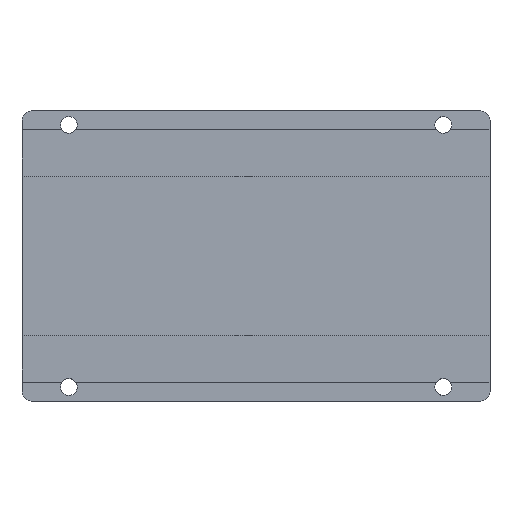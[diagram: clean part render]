
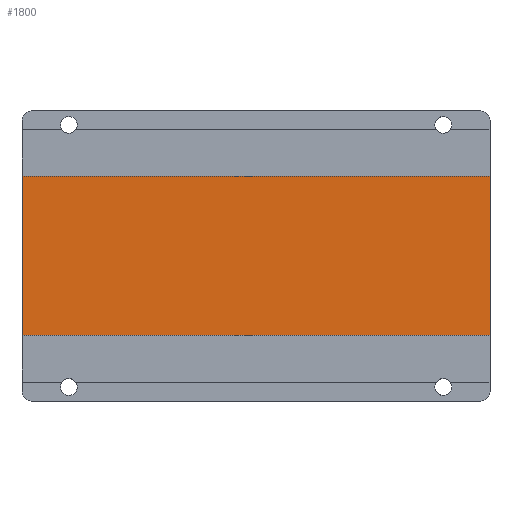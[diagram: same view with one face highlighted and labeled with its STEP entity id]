
A CAD part, top view. The second image highlights one B-rep face of the part: STEP entity #1800.
In plain terms, the highlighted planar face has unit normal (0, 0, 1).
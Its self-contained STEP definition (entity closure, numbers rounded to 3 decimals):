
#32 = PLANE('',#33);
#33 = AXIS2_PLACEMENT_3D('',#34,#35,#36);
#34 = CARTESIAN_POINT('',(0.,-31.,0.));
#35 = DIRECTION('',(1.,0.,0.));
#36 = DIRECTION('',(0.,0.,1.));
#281 = VERTEX_POINT('',#282);
#282 = CARTESIAN_POINT('',(0.,22.,4.));
#296 = PLANE('',#297);
#297 = AXIS2_PLACEMENT_3D('',#298,#299,#300);
#298 = CARTESIAN_POINT('',(0.,22.,4.));
#299 = DIRECTION('',(0.,1.,0.));
#300 = DIRECTION('',(0.,0.,1.));
#308 = EDGE_CURVE('',#309,#281,#311,.T.);
#309 = VERTEX_POINT('',#310);
#310 = CARTESIAN_POINT('',(0.,-22.,4.));
#311 = SURFACE_CURVE('',#312,(#316,#323),.PCURVE_S1.);
#312 = LINE('',#313,#314);
#313 = CARTESIAN_POINT('',(0.,-31.,4.));
#314 = VECTOR('',#315,1.);
#315 = DIRECTION('',(0.,1.,0.));
#316 = PCURVE('',#32,#317);
#317 = DEFINITIONAL_REPRESENTATION('',(#318),#322);
#318 = LINE('',#319,#320);
#319 = CARTESIAN_POINT('',(4.,0.));
#320 = VECTOR('',#321,1.);
#321 = DIRECTION('',(0.,-1.));
#322 = ( GEOMETRIC_REPRESENTATION_CONTEXT(2) 
PARAMETRIC_REPRESENTATION_CONTEXT() REPRESENTATION_CONTEXT('2D SPACE',''
  ) );
#323 = PCURVE('',#324,#329);
#324 = PLANE('',#325);
#325 = AXIS2_PLACEMENT_3D('',#326,#327,#328);
#326 = CARTESIAN_POINT('',(0.,-31.,4.));
#327 = DIRECTION('',(0.,0.,1.));
#328 = DIRECTION('',(1.,0.,0.));
#329 = DEFINITIONAL_REPRESENTATION('',(#330),#334);
#330 = LINE('',#331,#332);
#331 = CARTESIAN_POINT('',(0.,0.));
#332 = VECTOR('',#333,1.);
#333 = DIRECTION('',(0.,1.));
#334 = ( GEOMETRIC_REPRESENTATION_CONTEXT(2) 
PARAMETRIC_REPRESENTATION_CONTEXT() REPRESENTATION_CONTEXT('2D SPACE',''
  ) );
#352 = PLANE('',#353);
#353 = AXIS2_PLACEMENT_3D('',#354,#355,#356);
#354 = CARTESIAN_POINT('',(0.,-22.,4.));
#355 = DIRECTION('',(0.,1.,0.));
#356 = DIRECTION('',(0.,0.,1.));
#579 = PLANE('',#580);
#580 = AXIS2_PLACEMENT_3D('',#581,#582,#583);
#581 = CARTESIAN_POINT('',(100.,-31.,0.));
#582 = DIRECTION('',(1.,0.,0.));
#583 = DIRECTION('',(0.,0.,1.));
#1693 = EDGE_CURVE('',#281,#1694,#1696,.T.);
#1694 = VERTEX_POINT('',#1695);
#1695 = CARTESIAN_POINT('',(100.,22.,4.));
#1696 = SURFACE_CURVE('',#1697,(#1701,#1708),.PCURVE_S1.);
#1697 = LINE('',#1698,#1699);
#1698 = CARTESIAN_POINT('',(0.,22.,4.));
#1699 = VECTOR('',#1700,1.);
#1700 = DIRECTION('',(1.,0.,0.));
#1701 = PCURVE('',#296,#1702);
#1702 = DEFINITIONAL_REPRESENTATION('',(#1703),#1707);
#1703 = LINE('',#1704,#1705);
#1704 = CARTESIAN_POINT('',(0.,0.));
#1705 = VECTOR('',#1706,1.);
#1706 = DIRECTION('',(0.,1.));
#1707 = ( GEOMETRIC_REPRESENTATION_CONTEXT(2) 
PARAMETRIC_REPRESENTATION_CONTEXT() REPRESENTATION_CONTEXT('2D SPACE',''
  ) );
#1708 = PCURVE('',#324,#1709);
#1709 = DEFINITIONAL_REPRESENTATION('',(#1710),#1714);
#1710 = LINE('',#1711,#1712);
#1711 = CARTESIAN_POINT('',(0.,53.));
#1712 = VECTOR('',#1713,1.);
#1713 = DIRECTION('',(1.,0.));
#1714 = ( GEOMETRIC_REPRESENTATION_CONTEXT(2) 
PARAMETRIC_REPRESENTATION_CONTEXT() REPRESENTATION_CONTEXT('2D SPACE',''
  ) );
#1800 = ADVANCED_FACE('',(#1801),#324,.T.);
#1801 = FACE_BOUND('',#1802,.T.);
#1802 = EDGE_LOOP('',(#1803,#1804,#1827,#1848));
#1803 = ORIENTED_EDGE('',*,*,#308,.F.);
#1804 = ORIENTED_EDGE('',*,*,#1805,.T.);
#1805 = EDGE_CURVE('',#309,#1806,#1808,.T.);
#1806 = VERTEX_POINT('',#1807);
#1807 = CARTESIAN_POINT('',(100.,-22.,4.));
#1808 = SURFACE_CURVE('',#1809,(#1813,#1820),.PCURVE_S1.);
#1809 = LINE('',#1810,#1811);
#1810 = CARTESIAN_POINT('',(0.,-22.,4.));
#1811 = VECTOR('',#1812,1.);
#1812 = DIRECTION('',(1.,0.,0.));
#1813 = PCURVE('',#324,#1814);
#1814 = DEFINITIONAL_REPRESENTATION('',(#1815),#1819);
#1815 = LINE('',#1816,#1817);
#1816 = CARTESIAN_POINT('',(0.,9.));
#1817 = VECTOR('',#1818,1.);
#1818 = DIRECTION('',(1.,0.));
#1819 = ( GEOMETRIC_REPRESENTATION_CONTEXT(2) 
PARAMETRIC_REPRESENTATION_CONTEXT() REPRESENTATION_CONTEXT('2D SPACE',''
  ) );
#1820 = PCURVE('',#352,#1821);
#1821 = DEFINITIONAL_REPRESENTATION('',(#1822),#1826);
#1822 = LINE('',#1823,#1824);
#1823 = CARTESIAN_POINT('',(0.,0.));
#1824 = VECTOR('',#1825,1.);
#1825 = DIRECTION('',(0.,1.));
#1826 = ( GEOMETRIC_REPRESENTATION_CONTEXT(2) 
PARAMETRIC_REPRESENTATION_CONTEXT() REPRESENTATION_CONTEXT('2D SPACE',''
  ) );
#1827 = ORIENTED_EDGE('',*,*,#1828,.T.);
#1828 = EDGE_CURVE('',#1806,#1694,#1829,.T.);
#1829 = SURFACE_CURVE('',#1830,(#1834,#1841),.PCURVE_S1.);
#1830 = LINE('',#1831,#1832);
#1831 = CARTESIAN_POINT('',(100.,-31.,4.));
#1832 = VECTOR('',#1833,1.);
#1833 = DIRECTION('',(0.,1.,0.));
#1834 = PCURVE('',#324,#1835);
#1835 = DEFINITIONAL_REPRESENTATION('',(#1836),#1840);
#1836 = LINE('',#1837,#1838);
#1837 = CARTESIAN_POINT('',(100.,0.));
#1838 = VECTOR('',#1839,1.);
#1839 = DIRECTION('',(0.,1.));
#1840 = ( GEOMETRIC_REPRESENTATION_CONTEXT(2) 
PARAMETRIC_REPRESENTATION_CONTEXT() REPRESENTATION_CONTEXT('2D SPACE',''
  ) );
#1841 = PCURVE('',#579,#1842);
#1842 = DEFINITIONAL_REPRESENTATION('',(#1843),#1847);
#1843 = LINE('',#1844,#1845);
#1844 = CARTESIAN_POINT('',(4.,0.));
#1845 = VECTOR('',#1846,1.);
#1846 = DIRECTION('',(0.,-1.));
#1847 = ( GEOMETRIC_REPRESENTATION_CONTEXT(2) 
PARAMETRIC_REPRESENTATION_CONTEXT() REPRESENTATION_CONTEXT('2D SPACE',''
  ) );
#1848 = ORIENTED_EDGE('',*,*,#1693,.F.);
